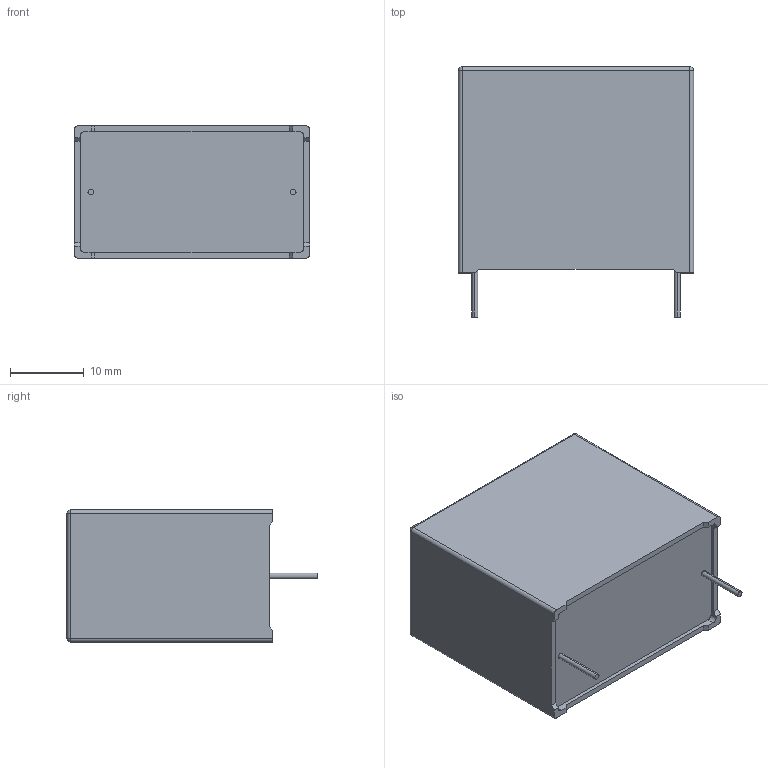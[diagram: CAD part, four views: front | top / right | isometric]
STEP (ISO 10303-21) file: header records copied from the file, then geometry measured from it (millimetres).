
FILE_DESCRIPTION (( 'STEP AP203' ), '1' );
FILE_NAME ('DC_Link_18x28x32_2pins.step', '2017-04-03T15:59:47', ( 'work' ), ( 'Hewlett-Packard Company' ), 'SwSTEP 2.0', 'SolidWorks 2017', '' );
FILE_SCHEMA (( 'CONFIG_CONTROL_DESIGN' ));
Length unit declared in the file: millimetre
Products named in the file (1): DC_Link_18x28x32_2pins
Bounding box: 32 x 34 x 18 mm (x, y, z)
Volume: 15592.5 mm3; surface area: 3952.9 mm2
Topology: 1 solids, 1 shells, 116 faces, 307 edges, 198 vertices
Faces by surface type: plane 80, cylinder 16, bspline 16, sphere 4
Entity records: 4292 total; most frequent: CARTESIAN_POINT 1442, ORIENTED_EDGE 606, DIRECTION 505, EDGE_CURVE 303, VECTOR 239, LINE 239, VERTEX_POINT 198, AXIS2_PLACEMENT_3D 133
